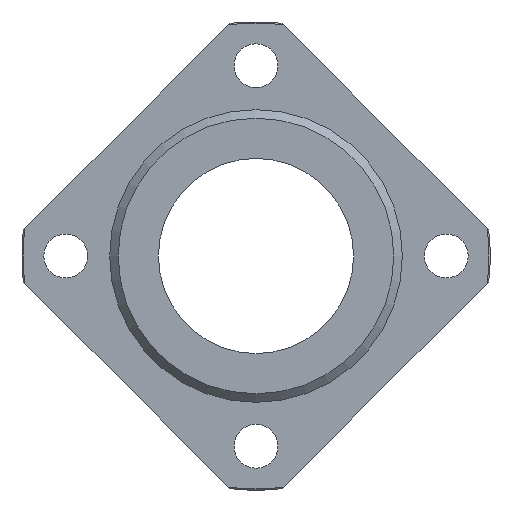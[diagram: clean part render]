
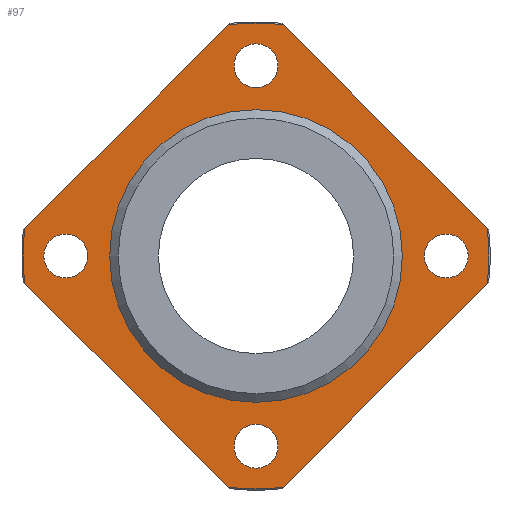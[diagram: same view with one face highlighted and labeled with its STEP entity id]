
A CAD part, left-side view. The second image highlights one B-rep face of the part: STEP entity #97.
In plain terms, the highlighted planar face has unit normal (-1, 0, 0).
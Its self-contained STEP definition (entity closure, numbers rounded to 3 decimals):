
#97=ADVANCED_FACE('',(#168,#169,#170,#171,#172,#173),#174,.F.);
#168=FACE_OUTER_BOUND('',#271,.T.);
#169=FACE_BOUND('',#272,.T.);
#170=FACE_BOUND('',#273,.T.);
#171=FACE_BOUND('',#274,.T.);
#172=FACE_BOUND('',#275,.T.);
#173=FACE_BOUND('',#276,.T.);
#174=PLANE('',#277);
#271=EDGE_LOOP('',(#482,#483,#484,#485,#486,#487,#488,#489));
#272=EDGE_LOOP('',(#490));
#273=EDGE_LOOP('',(#491));
#274=EDGE_LOOP('',(#492));
#275=EDGE_LOOP('',(#493));
#276=EDGE_LOOP('',(#494));
#277=AXIS2_PLACEMENT_3D('',#495,#496,#497);
#482=ORIENTED_EDGE('',*,*,#625,.T.);
#483=ORIENTED_EDGE('',*,*,#633,.T.);
#484=ORIENTED_EDGE('',*,*,#621,.T.);
#485=ORIENTED_EDGE('',*,*,#589,.T.);
#486=ORIENTED_EDGE('',*,*,#623,.T.);
#487=ORIENTED_EDGE('',*,*,#596,.T.);
#488=ORIENTED_EDGE('',*,*,#582,.T.);
#489=ORIENTED_EDGE('',*,*,#578,.T.);
#490=ORIENTED_EDGE('',*,*,#634,.T.);
#491=ORIENTED_EDGE('',*,*,#635,.T.);
#492=ORIENTED_EDGE('',*,*,#636,.T.);
#493=ORIENTED_EDGE('',*,*,#637,.T.);
#494=ORIENTED_EDGE('',*,*,#630,.T.);
#495=CARTESIAN_POINT('',(-18.0,47.746,0.0));
#496=DIRECTION('',(1.0,0.0,0.0));
#497=DIRECTION('',(0.0,0.0,-1.0));
#578=EDGE_CURVE('',#655,#653,#656,.T.);
#582=EDGE_CURVE('',#662,#655,#663,.T.);
#589=EDGE_CURVE('',#676,#674,#677,.T.);
#596=EDGE_CURVE('',#689,#662,#690,.T.);
#621=EDGE_CURVE('',#728,#676,#729,.T.);
#623=EDGE_CURVE('',#674,#689,#731,.T.);
#625=EDGE_CURVE('',#653,#732,#734,.T.);
#630=EDGE_CURVE('',#743,#743,#744,.T.);
#633=EDGE_CURVE('',#732,#728,#749,.T.);
#634=EDGE_CURVE('',#750,#750,#751,.T.);
#635=EDGE_CURVE('',#752,#752,#753,.T.);
#636=EDGE_CURVE('',#754,#754,#755,.T.);
#637=EDGE_CURVE('',#756,#756,#757,.T.);
#653=VERTEX_POINT('',#786);
#655=VERTEX_POINT('',#791);
#656=LINE('',#792,#793);
#662=VERTEX_POINT('',#806);
#663=CIRCLE('',#807,47.746);
#674=VERTEX_POINT('',#826);
#676=VERTEX_POINT('',#831);
#677=LINE('',#832,#833);
#689=VERTEX_POINT('',#857);
#690=LINE('',#858,#859);
#728=VERTEX_POINT('',#913);
#729=CIRCLE('',#914,47.746);
#731=CIRCLE('',#919,47.746);
#732=VERTEX_POINT('',#920);
#734=CIRCLE('',#925,47.746);
#743=VERTEX_POINT('',#934);
#744=CIRCLE('',#935,30.0);
#749=LINE('',#940,#941);
#750=VERTEX_POINT('',#942);
#751=CIRCLE('',#943,4.5);
#752=VERTEX_POINT('',#944);
#753=CIRCLE('',#945,4.5);
#754=VERTEX_POINT('',#946);
#755=CIRCLE('',#947,4.5);
#756=VERTEX_POINT('',#948);
#757=CIRCLE('',#949,4.5);
#786=CARTESIAN_POINT('',(-18.0,-5.619,47.414));
#791=CARTESIAN_POINT('',(-18.0,-47.414,5.619));
#792=CARTESIAN_POINT('',(-18.0,-2.644,50.39));
#793=VECTOR('',#968,1.0);
#806=CARTESIAN_POINT('',(-18.0,-47.414,-5.619));
#807=AXIS2_PLACEMENT_3D('',#970,#971,#972);
#826=CARTESIAN_POINT('',(-18.0,5.619,-47.414));
#831=CARTESIAN_POINT('',(-18.0,47.414,-5.619));
#832=CARTESIAN_POINT('',(-18.0,50.39,-2.644));
#833=VECTOR('',#978,1.0);
#857=CARTESIAN_POINT('',(-18.0,-5.619,-47.414));
#858=CARTESIAN_POINT('',(-18.0,-2.644,-50.39));
#859=VECTOR('',#982,1.0);
#913=CARTESIAN_POINT('',(-18.0,47.414,5.619));
#914=AXIS2_PLACEMENT_3D('',#1035,#1036,#1037);
#919=AXIS2_PLACEMENT_3D('',#1038,#1039,#1040);
#920=CARTESIAN_POINT('',(-18.0,5.619,47.414));
#925=AXIS2_PLACEMENT_3D('',#1041,#1042,#1043);
#934=CARTESIAN_POINT('',(-18.0,0.,-30.0));
#935=AXIS2_PLACEMENT_3D('',#1056,#1057,#1058);
#940=CARTESIAN_POINT('',(-18.0,50.39,2.644));
#941=VECTOR('',#1065,1.0);
#942=CARTESIAN_POINT('',(-18.0,39.0,-4.5));
#943=AXIS2_PLACEMENT_3D('',#1066,#1067,#1068);
#944=CARTESIAN_POINT('',(-18.0,0.0,34.5));
#945=AXIS2_PLACEMENT_3D('',#1069,#1070,#1071);
#946=CARTESIAN_POINT('',(-18.0,-39.0,-4.5));
#947=AXIS2_PLACEMENT_3D('',#1072,#1073,#1074);
#948=CARTESIAN_POINT('',(-18.0,0.,-43.5));
#949=AXIS2_PLACEMENT_3D('',#1075,#1076,#1077);
#968=DIRECTION('',(0.0,0.707,0.707));
#970=CARTESIAN_POINT('',(-18.0,0.,0.0));
#971=DIRECTION('',(-1.0,0.0,0.0));
#972=DIRECTION('',(0.0,0.0,1.0));
#978=DIRECTION('',(0.0,-0.707,-0.707));
#982=DIRECTION('',(0.0,-0.707,0.707));
#1035=CARTESIAN_POINT('',(-18.0,0.,0.0));
#1036=DIRECTION('',(-1.0,0.0,0.0));
#1037=DIRECTION('',(0.0,0.0,1.0));
#1038=CARTESIAN_POINT('',(-18.0,0.,0.0));
#1039=DIRECTION('',(-1.0,0.0,0.0));
#1040=DIRECTION('',(0.0,0.0,1.0));
#1041=CARTESIAN_POINT('',(-18.0,0.,0.0));
#1042=DIRECTION('',(-1.0,0.0,0.0));
#1043=DIRECTION('',(0.0,0.0,1.0));
#1056=CARTESIAN_POINT('',(-18.0,0.,0.0));
#1057=DIRECTION('',(1.0,0.0,0.0));
#1058=DIRECTION('',(0.0,0.0,-1.0));
#1065=DIRECTION('',(0.0,0.707,-0.707));
#1066=CARTESIAN_POINT('',(-18.0,39.0,0.0));
#1067=DIRECTION('',(1.0,0.0,0.0));
#1068=DIRECTION('',(0.0,0.0,-1.0));
#1069=CARTESIAN_POINT('',(-18.0,0.0,39.0));
#1070=DIRECTION('',(1.0,0.0,0.0));
#1071=DIRECTION('',(0.0,0.0,-1.0));
#1072=CARTESIAN_POINT('',(-18.0,-39.0,0.));
#1073=DIRECTION('',(1.0,0.0,0.0));
#1074=DIRECTION('',(0.0,0.0,-1.0));
#1075=CARTESIAN_POINT('',(-18.0,0.,-39.0));
#1076=DIRECTION('',(1.0,0.0,0.0));
#1077=DIRECTION('',(0.0,0.0,-1.0));
